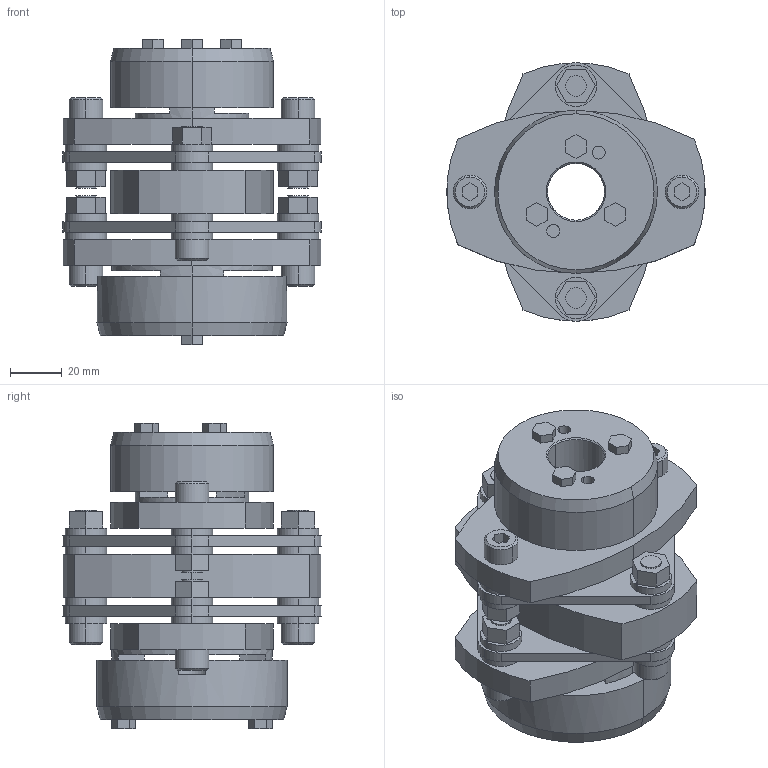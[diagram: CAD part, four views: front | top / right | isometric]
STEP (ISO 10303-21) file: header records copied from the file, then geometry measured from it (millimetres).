
FILE_DESCRIPTION((''),'2;1');
FILE_NAME('LCD-100T7-22×40.stp','2011-09-09T08:40:52',(''),(''),'AutoCAD STEP 2000i','AutoCAD 2000i',', , ');
FILE_SCHEMA(('CONFIG_CONTROL_DESIGN'));
Length unit declared in the file: millimetre
Products named in the file (9): LCD-100T7-22×38; 忣兜1; LC100T7-T038; LC100T7-T035; LC100T7-T030; LC100T7-T025; LC100T7-T022-1; LC100T7-T022; LCD100-ITA
Assembly tree (8 placements, depth 2):
  LCD-100T7-22×38
    忣兜1
    LC100T7-T038
    LC100T7-T035
    LC100T7-T030
    LC100T7-T025
    LC100T7-T022-1
    LC100T7-T022
    LCD100-ITA
Bounding box: 100 x 99.93 x 118 mm (x, y, z)
Volume: 352571.4 mm3; surface area: 90555.6 mm2
Topology: 1 solids, 1 shells, 317 faces, 774 edges, 508 vertices
Faces by surface type: plane 171, cylinder 122, cone 24
Entity records: 9623 total; most frequent: DIRECTION 1714, CARTESIAN_POINT 1608, ORIENTED_EDGE 1548, EDGE_CURVE 774, AXIS2_PLACEMENT_3D 614, VERTEX_POINT 508, VECTOR 486, LINE 486
